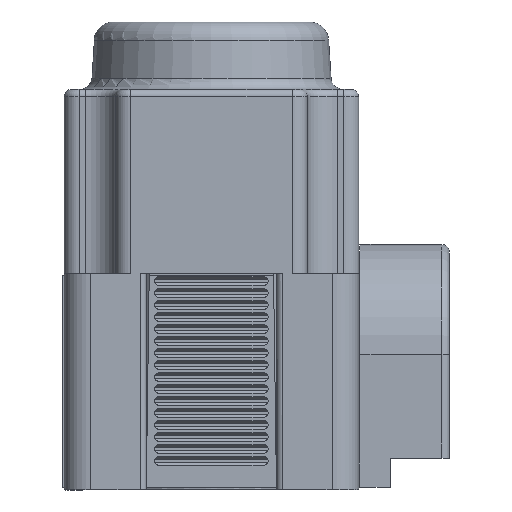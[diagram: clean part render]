
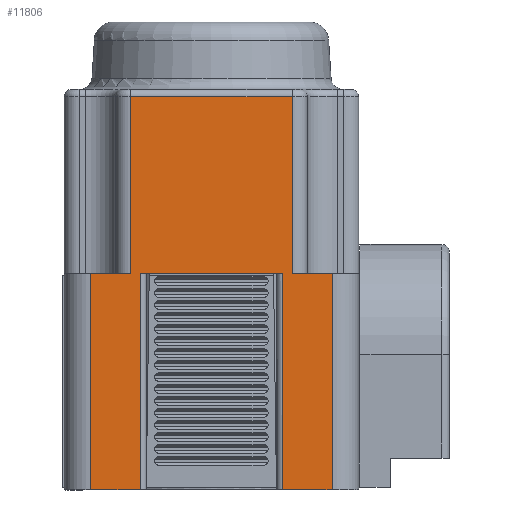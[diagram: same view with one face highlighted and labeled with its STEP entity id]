
A CAD part, left-side view. The second image highlights one B-rep face of the part: STEP entity #11806.
In plain terms, the highlighted planar face has unit normal (-1, 0, 0).
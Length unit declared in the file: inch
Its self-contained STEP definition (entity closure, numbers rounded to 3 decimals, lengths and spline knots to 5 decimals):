
#466=PLANE('',#13136);
#1818=FACE_OUTER_BOUND('',#2528,.T.);
#2528=EDGE_LOOP('',(#10152,#10153,#10154,#10155,#10156,#10157,#10158,#10159,
#10160,#10161,#10162,#10163));
#3291=LINE('',#21718,#4044);
#3304=LINE('',#21788,#4057);
#3427=LINE('',#23376,#4180);
#3445=LINE('',#23431,#4198);
#3446=LINE('',#23435,#4199);
#3449=LINE('',#23454,#4202);
#3462=LINE('',#23523,#4215);
#3463=LINE('',#23527,#4216);
#3464=LINE('',#23528,#4217);
#3465=LINE('',#23530,#4218);
#3466=LINE('',#23532,#4219);
#3467=LINE('',#23533,#4220);
#4044=VECTOR('',#15908,0.3937);
#4057=VECTOR('',#15991,0.3937);
#4180=VECTOR('',#16312,0.3937);
#4198=VECTOR('',#16378,0.3937);
#4199=VECTOR('',#16383,0.3937);
#4202=VECTOR('',#16404,0.3937);
#4215=VECTOR('',#16495,0.3937);
#4216=VECTOR('',#16500,0.3937);
#4217=VECTOR('',#16501,0.3937);
#4218=VECTOR('',#16502,0.3937);
#4219=VECTOR('',#16503,0.3937);
#4220=VECTOR('',#16504,0.3937);
#5101=VERTEX_POINT('',#21710);
#5103=VERTEX_POINT('',#21716);
#5125=VERTEX_POINT('',#21786);
#5261=VERTEX_POINT('',#23373);
#5262=VERTEX_POINT('',#23375);
#5275=VERTEX_POINT('',#23430);
#5276=VERTEX_POINT('',#23434);
#5283=VERTEX_POINT('',#23452);
#5300=VERTEX_POINT('',#23522);
#5301=VERTEX_POINT('',#23526);
#5302=VERTEX_POINT('',#23529);
#5303=VERTEX_POINT('',#23531);
#6621=EDGE_CURVE('',#5103,#5101,#3291,.T.);
#6657=EDGE_CURVE('',#5125,#5103,#3304,.T.);
#6866=EDGE_CURVE('',#5262,#5261,#3427,.T.);
#6894=EDGE_CURVE('',#5275,#5101,#3445,.T.);
#6896=EDGE_CURVE('',#5276,#5275,#3446,.T.);
#6906=EDGE_CURVE('',#5125,#5283,#3449,.T.);
#6940=EDGE_CURVE('',#5300,#5262,#3462,.T.);
#6942=EDGE_CURVE('',#5301,#5283,#3463,.T.);
#6943=EDGE_CURVE('',#5300,#5301,#3464,.T.);
#6944=EDGE_CURVE('',#5302,#5261,#3465,.T.);
#6945=EDGE_CURVE('',#5302,#5303,#3466,.T.);
#6946=EDGE_CURVE('',#5303,#5276,#3467,.T.);
#10152=ORIENTED_EDGE('',*,*,#6621,.F.);
#10153=ORIENTED_EDGE('',*,*,#6657,.F.);
#10154=ORIENTED_EDGE('',*,*,#6906,.T.);
#10155=ORIENTED_EDGE('',*,*,#6942,.F.);
#10156=ORIENTED_EDGE('',*,*,#6943,.F.);
#10157=ORIENTED_EDGE('',*,*,#6940,.T.);
#10158=ORIENTED_EDGE('',*,*,#6866,.T.);
#10159=ORIENTED_EDGE('',*,*,#6944,.F.);
#10160=ORIENTED_EDGE('',*,*,#6945,.T.);
#10161=ORIENTED_EDGE('',*,*,#6946,.T.);
#10162=ORIENTED_EDGE('',*,*,#6896,.T.);
#10163=ORIENTED_EDGE('',*,*,#6894,.T.);
#11806=ADVANCED_FACE('',(#1818),#466,.T.);
#13136=AXIS2_PLACEMENT_3D('',#23525,#16498,#16499);
#15908=DIRECTION('',(0.,-1.,0.));
#15991=DIRECTION('',(0.,0.,1.));
#16312=DIRECTION('',(0.,-1.,0.));
#16378=DIRECTION('',(0.,0.,1.));
#16383=DIRECTION('',(0.,1.,0.));
#16404=DIRECTION('',(0.,1.,0.));
#16495=DIRECTION('',(0.,0.,1.));
#16498=DIRECTION('center_axis',(-1.,0.,0.));
#16499=DIRECTION('ref_axis',(0.,0.,1.));
#16500=DIRECTION('',(0.,0.,1.));
#16501=DIRECTION('',(0.,1.,0.));
#16502=DIRECTION('',(0.,0.,1.));
#16503=DIRECTION('',(0.,-1.,0.));
#16504=DIRECTION('',(0.,0.,1.));
#21710=CARTESIAN_POINT('',(-0.46698,-0.40686,0.65855));
#21716=CARTESIAN_POINT('',(-0.46698,0.26114,0.65855));
#21718=CARTESIAN_POINT('',(-0.46698,0.26114,0.65855));
#21786=CARTESIAN_POINT('',(-0.46698,0.26114,-0.07345));
#21788=CARTESIAN_POINT('',(-0.46698,0.26114,-0.07345));
#23373=CARTESIAN_POINT('',(-0.46698,-0.36686,-0.07345));
#23375=CARTESIAN_POINT('',(-0.46698,0.22114,-0.07345));
#23376=CARTESIAN_POINT('',(-0.46698,0.22114,-0.07345));
#23430=CARTESIAN_POINT('',(-0.46698,-0.40686,-0.07345));
#23431=CARTESIAN_POINT('',(-0.46698,-0.40686,-0.07345));
#23434=CARTESIAN_POINT('',(-0.46698,-0.57186,-0.07345));
#23435=CARTESIAN_POINT('',(-0.46698,-0.57186,-0.07345));
#23452=CARTESIAN_POINT('',(-0.46698,0.42614,-0.07345));
#23454=CARTESIAN_POINT('',(-0.46698,0.26114,-0.07345));
#23522=CARTESIAN_POINT('',(-0.46698,0.22114,-0.96745));
#23523=CARTESIAN_POINT('',(-0.46698,0.22114,-0.96745));
#23525=CARTESIAN_POINT('Origin',(-0.46698,-0.57225,
-0.15445));
#23526=CARTESIAN_POINT('',(-0.46698,0.42614,-0.96745));
#23527=CARTESIAN_POINT('',(-0.46698,0.42614,-0.96745));
#23528=CARTESIAN_POINT('',(-0.46698,0.22114,-0.96745));
#23529=CARTESIAN_POINT('',(-0.46698,-0.36686,-0.96745));
#23530=CARTESIAN_POINT('',(-0.46698,-0.36686,-0.96745));
#23531=CARTESIAN_POINT('',(-0.46698,-0.57186,-0.96745));
#23532=CARTESIAN_POINT('',(-0.46698,-0.36686,-0.96745));
#23533=CARTESIAN_POINT('',(-0.46698,-0.57186,-0.96745));
